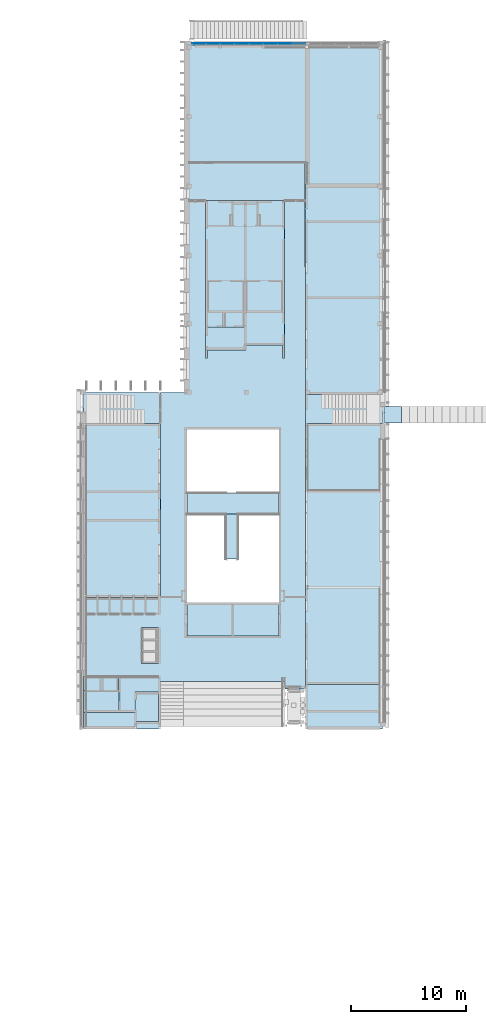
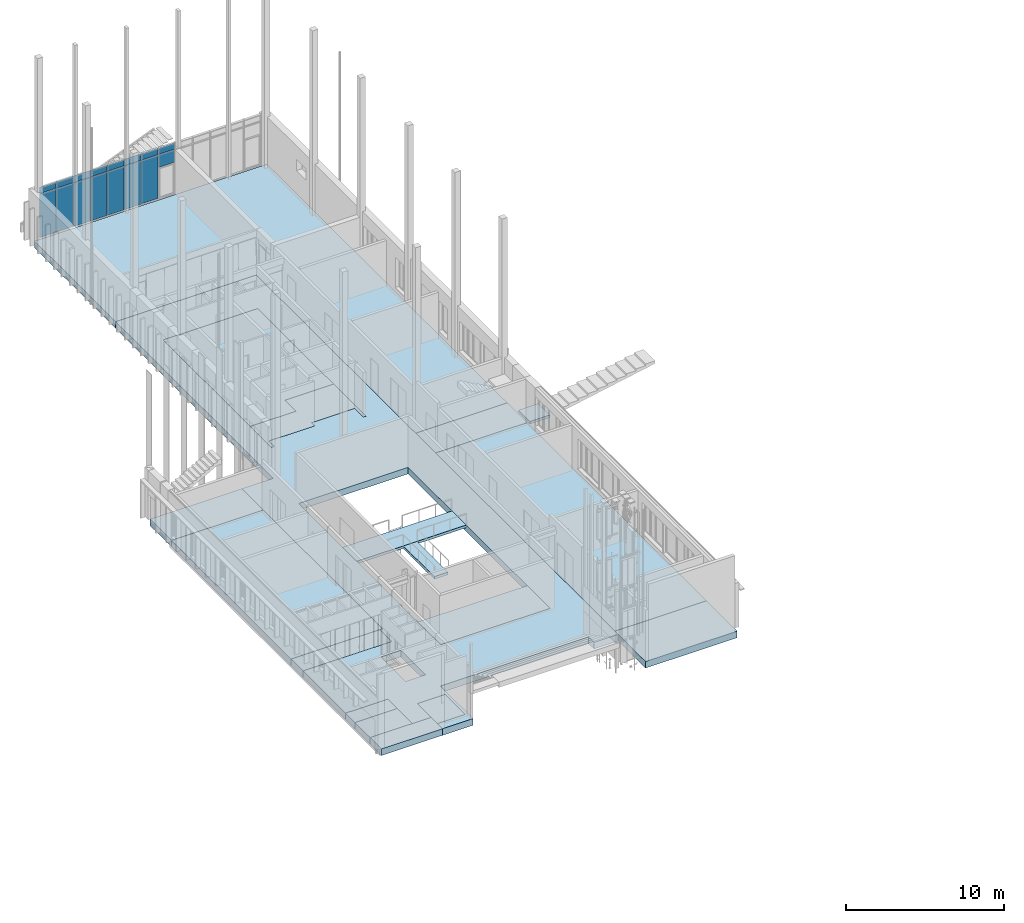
# One storey, part 9 of 89: 18 slabs, 16 plates, 3 openings, 1 element without a shape of its own.
"""IFC2X3 building model written with IfcOpenShell, lengths in millimetres."""

from ifc_helpers import new_model, entity, si_unit, converted_unit, derived_unit, money_unit, direction, frame, origin_with_axes, place, context, subcontext, project, spatial, polyline, outline, extrude, material, layer, layer_set, layer_usage, type_object, element, aggregate, save


model = new_model("IFC2X3")

# Units and contexts
model_context = context("Model", 3, precision=0.01, world=origin_with_axes(), true_north=direction((0.0, 1.0)))
body_context = subcontext(model_context, "Body", "Model", "MODEL_VIEW")
ifc_project = project(units=[si_unit("LENGTHUNIT", "METRE", prefix="MILLI"), si_unit("AREAUNIT", "SQUARE_METRE"), si_unit("VOLUMEUNIT", "CUBIC_METRE"), converted_unit("PLANEANGLEUNIT", "DEGREE", entity("IfcPlaneAngleMeasure", 0.0174532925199), si_unit("PLANEANGLEUNIT", "RADIAN"), dimensions=[0, 0, 0, 0, 0, 0, 0]), si_unit("SOLIDANGLEUNIT", "STERADIAN"), money_unit("EUR"), converted_unit("TIMEUNIT", "Year", entity("IfcTimeMeasure", 31556926.0), si_unit("TIMEUNIT", "SECOND"), dimensions=[0, 0, 1, 0, 0, 0, 0]), si_unit("MASSUNIT", "GRAM", prefix="KILO"), si_unit("THERMODYNAMICTEMPERATUREUNIT", "DEGREE_CELSIUS"), si_unit("LUMINOUSINTENSITYUNIT", "LUMEN"), si_unit("ENERGYUNIT", "JOULE", prefix="MEGA"), derived_unit("THERMALCONDUCTANCEUNIT", [(si_unit("POWERUNIT", "WATT"), 1), (si_unit("LENGTHUNIT", "METRE"), -1), (si_unit("THERMODYNAMICTEMPERATUREUNIT", "KELVIN"), -1)]), derived_unit("SPECIFICHEATCAPACITYUNIT", [(si_unit("ENERGYUNIT", "JOULE"), 1), (si_unit("MASSUNIT", "GRAM", prefix="KILO"), -1), (si_unit("THERMODYNAMICTEMPERATUREUNIT", "KELVIN"), -1)]), derived_unit("MASSDENSITYUNIT", [(si_unit("MASSUNIT", "GRAM", prefix="KILO"), 1), (si_unit("VOLUMEUNIT", "CUBIC_METRE"), -1)])], contexts=[model_context])

# Site, building, storey
site_placement = place(None, origin_with_axes())
site = spatial("IfcSite", under=ifc_project, at=site_placement, Name="Puškini 31, Narva", CompositionType="ELEMENT")
building_placement = place(site_placement, origin_with_axes())
building = spatial("IfcBuilding", under=site, at=building_placement, Name="Narva Riigigümnaasium", CompositionType="ELEMENT")
storey_placement = place(building_placement, frame((0.0, 0.0, -3300.0), z_axis=(0.0, 0.0, 1.0), x_axis=(1.0, 0.0, 0.0)))
storey = spatial("IfcBuildingStorey", under=building, at=storey_placement, Name="1.korrus -3.3", CompositionType="ELEMENT", Elevation=-3300.0)

# Curtain wall, plates
curtain_wall_type = type_object("IfcCurtainWallType", Name="Curtain Wall Type", PredefinedType="NOTDEFINED")
curtain_wall_placement = place(storey_placement, frame((47634.9999923, 254360.0, -1.86566340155e-05), z_axis=(0.0, 0.0, 1.0), x_axis=(1.0, 0.0, 0.0)))
curtain_wall = element("IfcCurtainWall", 1, at=curtain_wall_placement, inside=storey, type_object=curtain_wall_type, Name="G-KLF-06")
ifc_material_1 = material(Name="VKR-05_Klaas")
plate_type_1 = type_object("IfcPlateType", Name="1225 x 3375 x 20", PredefinedType="CURTAIN_PANEL")
plate_1_placement = place(curtain_wall_placement, frame((-8374.00000717, 0.0, 1710.00001951), z_axis=(0.0, 0.0, 1.0), x_axis=(-1.0, 0.0, 0.0)))
plate_1 = element("IfcPlate", 2, at=plate_1_placement, type_object=plate_type_1, material=ifc_material_1, Name="klaasfassaadi klaas", ObjectType="CURTAIN_PANEL", context=body_context, shape_type="SweptSolid", body=[
    extrude(outline(polyline([(-818.999986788, -1699.99999704), (405.999987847, -1699.99999704), (405.999987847, 1675.00001732), (-818.999986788, 1675.00001732), (-818.999986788, -1699.99999704)])), frame((0.0, -10.0, 0.0), z_axis=(0.0, 1.0, 0.0), x_axis=(1.0, 0.0, 0.0)), (0.0, 0.0, 1.0), 20.0),
])
ifc_material_2 = material(Name="Klaas")
plate_type_2 = type_object("IfcPlateType", Name="Main Panel 1230 x 3375 x 58", PredefinedType="CURTAIN_PANEL")
plate_2_placement = place(curtain_wall_placement, frame((-7126.9999986, 0.0, 1710.00001951), z_axis=(0.0, 0.0, 1.0), x_axis=(-1.0, 0.0, 0.0)))
plate_2 = element("IfcPlate", 3, at=plate_2_placement, type_object=plate_type_2, material=ifc_material_2, Name="klaasfassaadi klaas", ObjectType="CURTAIN_PANEL", context=body_context, shape_type="SweptSolid", body=[
    extrude(outline(polyline([(-822.000020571, -1699.99999704), (407.999990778, -1699.99999704), (407.999990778, 1675.00001732), (-822.000020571, 1675.00001732), (-822.000020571, -1699.99999704)])), frame((0.0, -29.0, 0.0), z_axis=(0.0, 1.0, 0.0), x_axis=(1.0, 0.0, 0.0)), (0.0, 0.0, 1.0), 58.0),
])
plate_type_3 = type_object("IfcPlateType", Name="Main Panel 5 x 10 x 58", PredefinedType="CURTAIN_PANEL")
plate_3_placement = place(curtain_wall_placement, frame((-5670.33332863, 0.0, 2280.00002601), z_axis=(0.0, 0.0, 1.0), x_axis=(-1.0, 0.0, 0.0)))
plate_3 = element("IfcPlate", 4, at=plate_3_placement, type_object=plate_type_3, material=ifc_material_2, Name="klaasfassaadi klaas", ObjectType="CURTAIN_PANEL", context=body_context, shape_type="SweptSolid", body=[
    extrude(outline(polyline([(-611.333361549, -1140.000013), (-606.333324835, -1140.000013), (-606.333324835, -1129.99999054), (599.666683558, -1129.99999054), (599.666683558, -1140.000013), (614.666640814, -1140.000013), (614.666640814, 2245.00002382), (-611.333361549, 2245.00002382), (-611.333361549, -1140.000013)])), frame((0.0, -29.0, 0.0), z_axis=(0.0, 1.0, 0.0), x_axis=(1.0, 0.0, 0.0)), (0.0, 0.0, 1.0), 58.0),
])
plate_type_4 = type_object("IfcPlateType", Name="Main Panel 7 x 10 x 58", PredefinedType="CURTAIN_PANEL")
plate_4_placement = place(curtain_wall_placement, frame((-3335.25000298, 0.0, 2137.50002438), z_axis=(0.0, 0.0, 1.0), x_axis=(-1.0, 0.0, 0.0)))
plate_4 = element("IfcPlate", 5, at=plate_4_placement, type_object=plate_type_4, material=ifc_material_2, Name="klaasfassaadi klaas", ObjectType="CURTAIN_PANEL", context=body_context, shape_type="SweptSolid", body=[
    extrude(outline(polyline([(-768.250028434, -1282.50001463), (-761.249987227, -1282.50001463), (-761.249987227, -1272.49999216), (442.750016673, -1272.49999216), (442.750016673, -1282.50001463), (459.749978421, -1282.50001463), (459.749978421, 2102.5000222), (-768.250028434, 2102.5000222), (-768.250028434, -1282.50001463)])), frame((0.0, -29.0, 0.0), z_axis=(0.0, 1.0, 0.0), x_axis=(1.0, 0.0, 0.0)), (0.0, 0.0, 1.0), 58.0),
])
ifc_material_3 = material(Name="ET-04_Alumiinium")
plate_type_5 = type_object("IfcPlateType", Name="1225 x 495 x 20", PredefinedType="CURTAIN_PANEL")
plate_5_placement = place(curtain_wall_placement, frame((-8374.00000717, 0.0, 3690.00002884), z_axis=(0.0, 0.0, 1.0), x_axis=(-1.0, 0.0, 0.0)))
plate_5 = element("IfcPlate", 6, at=plate_5_placement, type_object=plate_type_5, material=ifc_material_3, Name="klaasfassaadi klaas", ObjectType="CURTAIN_PANEL", context=body_context, shape_type="SweptSolid", body=[
    extrude(outline(polyline([(-818.999986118, -234.999983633), (406.000001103, -234.999983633), (406.000001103, 259.999980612), (-818.999986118, 259.999980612), (-818.999986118, -234.999983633)])), frame((0.0, -10.0, 0.0), z_axis=(0.0, 1.0, 0.0), x_axis=(1.0, 0.0, 0.0)), (0.0, 0.0, 1.0), 20.0),
])
ifc_material_4 = material(Name="Alumiiniumprofiil")
plate_type_6 = type_object("IfcPlateType", Name="1230 x 495 x 20", PredefinedType="CURTAIN_PANEL")
plate_6_placement = place(curtain_wall_placement, frame((-7126.9999986, 0.0, 3690.00002884), z_axis=(0.0, 0.0, 1.0), x_axis=(-1.0, 0.0, 0.0)))
plate_6 = element("IfcPlate", 7, at=plate_6_placement, type_object=plate_type_6, material=ifc_material_4, Name="klaasfassaadi klaas", ObjectType="CURTAIN_PANEL", context=body_context, shape_type="SweptSolid", body=[
    extrude(outline(polyline([(-822.000013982, -234.99999588), (408.000020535, -234.99999588), (408.000020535, 259.999997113), (-822.000013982, 259.999997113), (-822.000013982, -234.99999588)])), frame((0.0, -10.0, 0.0), z_axis=(0.0, 1.0, 0.0), x_axis=(1.0, 0.0, 0.0)), (0.0, 0.0, 1.0), 20.0),
])
plate_type_7 = type_object("IfcPlateType", Name="1226 x 505 x 20", PredefinedType="CURTAIN_PANEL")
plate_7_placement = place(curtain_wall_placement, frame((-5670.33332863, 0.0, 3600.00003223), z_axis=(0.0, 0.0, 1.0), x_axis=(-1.0, 0.0, 0.0)))
plate_7 = element("IfcPlate", 8, at=plate_7_placement, type_object=plate_type_7, material=ifc_material_4, Name="klaasfassaadi klaas", ObjectType="CURTAIN_PANEL", context=body_context, shape_type="SweptSolid", body=[
    extrude(outline(polyline([(-611.33333501, -324.999988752), (614.666661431, -324.999988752), (614.666661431, 179.999993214), (599.666677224, 179.999993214), (599.666677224, 169.999991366), (-606.333334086, 169.999991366), (-606.333334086, 179.999993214), (-611.33333501, 179.999993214), (-611.33333501, -324.999988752)])), frame((0.0, -10.0, 0.0), z_axis=(0.0, 1.0, 0.0), x_axis=(1.0, 0.0, 0.0)), (0.0, 0.0, 1.0), 20.0),
])
plate_8_placement = place(curtain_wall_placement, frame((-3178.66666935, 0.0, 3600.00003223), z_axis=(0.0, 0.0, 1.0), x_axis=(-1.0, 0.0, 0.0)))
plate_8 = element("IfcPlate", 9, at=plate_8_placement, type_object=plate_type_7, material=ifc_material_4, Name="klaasfassaadi klaas", ObjectType="CURTAIN_PANEL", context=body_context, shape_type="SweptSolid", body=[
    extrude(outline(polyline([(-611.666676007, -324.999988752), (614.333320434, -324.999988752), (614.333320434, 179.999993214), (599.333336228, 179.999993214), (599.333336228, 169.999991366), (-604.666633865, 169.999991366), (-604.666633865, 179.999993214), (-611.666676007, 179.999993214), (-611.666676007, -324.999988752)])), frame((0.0, -10.0, 0.0), z_axis=(0.0, 1.0, 0.0), x_axis=(1.0, 0.0, 0.0)), (0.0, 0.0, 1.0), 20.0),
])
plate_type_8 = type_object("IfcPlateType", Name="1226 x 495 x 20", PredefinedType="CURTAIN_PANEL")
plate_9_placement = place(curtain_wall_placement, frame((-4301.79999413, 0.0, 3636.00003087), z_axis=(0.0, 0.0, 1.0), x_axis=(-1.0, 0.0, 0.0)))
plate_9 = element("IfcPlate", 10, at=plate_9_placement, type_object=plate_type_8, material=ifc_material_4, Name="klaasfassaadi klaas", ObjectType="CURTAIN_PANEL", context=body_context, shape_type="SweptSolid", body=[
    extrude(outline(polyline([(-488.800000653, -288.999990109), (737.199995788, -288.999990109), (737.199995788, 205.999990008), (-488.800000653, 205.999990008), (-488.800000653, -288.999990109)])), frame((0.0, -9.99999999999, 0.0), z_axis=(0.0, 1.0, 0.0), x_axis=(1.0, 0.0, 0.0)), (0.0, 0.0, 1.0), 20.0),
])
plate_10_placement = place(curtain_wall_placement, frame((-1933.99999143, 0.0, 3690.00002884), z_axis=(0.0, 0.0, 1.0), x_axis=(-1.0, 0.0, 0.0)))
plate_10 = element("IfcPlate", 11, at=plate_10_placement, type_object=plate_type_8, material=ifc_material_3, Name="klaasfassaadi klaas", ObjectType="CURTAIN_PANEL", context=body_context, shape_type="SweptSolid", body=[
    extrude(outline(polyline([(-612.99999822, -234.999992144), (612.99999822, -234.999992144), (612.99999822, 259.999987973), (-612.99999822, 259.999987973), (-612.99999822, -234.999992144)])), frame((0.0, -9.99999999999, 0.0), z_axis=(0.0, 1.0, 0.0), x_axis=(1.0, 0.0, 0.0)), (0.0, 0.0, 1.0), 20.0),
])
plate_type_9 = type_object("IfcPlateType", Name="1166 x 1010 x 20", PredefinedType="CURTAIN_PANEL")
plate_11_placement = place(curtain_wall_placement, frame((-639.019647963, 0.0, 2833.57146652), z_axis=(0.0, 0.0, 1.0), x_axis=(-1.0, 0.0, 0.0)))
plate_11 = element("IfcPlate", 12, at=plate_11_placement, type_object=plate_type_9, material=ifc_material_2, Name="klaasfassaadi klaas", ObjectType="CURTAIN_PANEL", context=body_context, shape_type="SweptSolid", body=[
    extrude(outline(polyline([(-504.019626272, -576.428566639), (661.980344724, -576.428566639), (661.980344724, 433.571439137), (646.980373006, 433.571439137), (646.980373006, 423.571440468), (-478.882181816, 423.571440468), (-478.882181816, 433.571439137), (-494.019627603, 433.571439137), (-494.019627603, -561.428612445), (-504.019626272, -561.428612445), (-504.019626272, -576.428566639)])), frame((0.0, -10.0, 0.0), z_axis=(0.0, 1.0, 0.0), x_axis=(1.0, 0.0, 0.0)), (0.0, 0.0, 1.0), 20.0),
])
plate_type_10 = type_object("IfcPlateType", Name="1156 x 495 x 20", PredefinedType="CURTAIN_PANEL")
plate_12_placement = place(curtain_wall_placement, frame((-723.000006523, 0.0, 3690.00002884), z_axis=(0.0, 0.0, 1.0), x_axis=(-1.0, 0.0, 0.0)))
plate_12 = element("IfcPlate", 13, at=plate_12_placement, type_object=plate_type_10, material=ifc_material_4, Name="klaasfassaadi klaas", ObjectType="CURTAIN_PANEL", context=body_context, shape_type="SweptSolid", body=[
    extrude(outline(polyline([(-577.999986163, -234.999986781), (577.999986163, -234.999986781), (577.999986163, 259.999991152), (-577.999986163, 259.999991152), (-577.999986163, -234.999986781)])), frame((0.0, -9.99999999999, 0.0), z_axis=(0.0, 1.0, 0.0), x_axis=(1.0, 0.0, 0.0)), (0.0, 0.0, 1.0), 20.0),
])
plate_type_11 = type_object("IfcPlateType", Name="1198 x 3375 x 20", PredefinedType="CURTAIN_PANEL")
plate_13_placement = place(curtain_wall_placement, frame((-9411.50000491, 0.0, 1710.00001951), z_axis=(0.0, 0.0, 1.0), x_axis=(-1.0, 0.0, 0.0)))
plate_13 = element("IfcPlate", 14, at=plate_13_placement, type_object=plate_type_11, material=ifc_material_1, Name="klaasfassaadi klaas", ObjectType="CURTAIN_PANEL", context=body_context, shape_type="SweptSolid", body=[
    extrude(outline(polyline([(-611.500005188, -1699.99999704), (586.499985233, -1699.99999704), (586.499985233, 1675.00001732), (-611.500005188, 1675.00001732), (-611.500005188, -1699.99999704)])), frame((0.0, -9.99999999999, 0.0), z_axis=(0.0, 1.0, 0.0), x_axis=(1.0, 0.0, 0.0)), (0.0, 0.0, 1.0), 20.0),
])
plate_type_12 = type_object("IfcPlateType", Name="1226 x 3375 x 20", PredefinedType="CURTAIN_PANEL")
plate_14_placement = place(curtain_wall_placement, frame((-1809.39999141, 0.0, 1848.00002108), z_axis=(0.0, 0.0, 1.0), x_axis=(-1.0, 0.0, 0.0)))
plate_14 = element("IfcPlate", 15, at=plate_14_placement, type_object=plate_type_12, material=ifc_material_1, Name="klaasfassaadi klaas", ObjectType="CURTAIN_PANEL", context=body_context, shape_type="SweptSolid", body=[
    extrude(outline(polyline([(-488.400024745, -1561.99999547), (737.599977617, -1561.99999547), (737.599977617, 1813.00001889), (-488.400024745, 1813.00001889), (-488.400024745, -1561.99999547)])), frame((0.0, -9.99999999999, 0.0), z_axis=(0.0, 1.0, 0.0), x_axis=(1.0, 0.0, 0.0)), (0.0, 0.0, 1.0), 20.0),
])
plate_type_13 = type_object("IfcPlateType", Name="Main Panel 1224 x 3375 x 58", PredefinedType="CURTAIN_PANEL")
plate_15_placement = place(curtain_wall_placement, frame((-4426.99999782, 0.0, 1710.00001951), z_axis=(0.0, 0.0, 1.0), x_axis=(-1.0, 0.0, 0.0)))
plate_15 = element("IfcPlate", 16, at=plate_15_placement, type_object=plate_type_13, material=ifc_material_2, Name="klaasfassaadi klaas", ObjectType="CURTAIN_PANEL", context=body_context, shape_type="SweptSolid", body=[
    extrude(outline(polyline([(-611.999975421, -1699.99999704), (611.999971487, -1699.99999704), (611.999971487, 1675.00001732), (-611.999975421, 1675.00001732), (-611.999975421, -1699.99999704)])), frame((0.0, -29.0, 0.0), z_axis=(0.0, 1.0, 0.0), x_axis=(1.0, 0.0, 0.0)), (0.0, 0.0, 1.0), 58.0),
])
plate_type_14 = type_object("IfcPlateType", Name="1198 x 495 x 20", PredefinedType="CURTAIN_PANEL")
plate_16_placement = place(curtain_wall_placement, frame((-9411.50000491, 0.0, 3690.00002884), z_axis=(0.0, 0.0, 1.0), x_axis=(-1.0, 0.0, 0.0)))
plate_16 = element("IfcPlate", 17, at=plate_16_placement, type_object=plate_type_14, material=ifc_material_3, Name="klaasfassaadi klaas", ObjectType="CURTAIN_PANEL", context=body_context, shape_type="SweptSolid", body=[
    extrude(outline(polyline([(-611.499984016, -234.999996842), (586.499994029, -234.999996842), (586.499994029, 259.999986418), (-611.499984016, 259.999986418), (-611.499984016, -234.999996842)])), frame((0.0, -9.99999999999, 0.0), z_axis=(0.0, 1.0, 0.0), x_axis=(1.0, 0.0, 0.0)), (0.0, 0.0, 1.0), 20.0),
])
aggregate(curtain_wall, [plate_1, plate_2, plate_3, plate_4, plate_5, plate_6, plate_7, plate_9, plate_8, plate_10, plate_11, plate_12, plate_13, plate_14, plate_15, plate_16])

# Slabs
ifc_material_5 = material(Name="Salto-põrandakate")
ifc_layer_1 = layer(ifc_material_5, 10.0, ventilated="UNKNOWN")
ifc_material_6 = material(Name="KON-04_Betoon - Konstuktsioon")
ifc_layer_2 = layer(ifc_material_6, 100.0, ventilated="UNKNOWN")
ifc_material_7 = material(Name="SOJ-04_Soojustus - Mineraal Kõva")
ifc_layer_3 = layer(ifc_material_7, 100.0, ventilated="UNKNOWN")
ifc_material_8 = material(Name="VKK-03_Kruus")
ifc_layer_4 = layer(ifc_material_8, 200.0, ventilated="UNKNOWN")
ifc_layer_set_1 = layer_set([ifc_layer_1, ifc_layer_2, ifc_layer_3, ifc_layer_3, ifc_layer_4], Name="G-PP-01")
ifc_layer_usage_1 = layer_usage(ifc_layer_set_1, "AXIS3", "NEGATIVE", 510.0)
slab_type_1 = type_object("IfcSlabType", Name="G-PP-01 510", PredefinedType="NOTDEFINED")
slab_1_placement = place(storey_placement, frame((28200.0401775, 199259.999716, 0.0), z_axis=(0.0, 0.0, 1.0), x_axis=(1.0, 0.0, 0.0)))
element("IfcSlab", 18, at=slab_1_placement, inside=storey, type_object=slab_type_1, material=ifc_layer_usage_1, Name="Põrand pinnasel", PredefinedType="NOTDEFINED", context=body_context, shape_type="SweptSolid", body=[
    extrude(outline(polyline([(0.0, 0.0), (0.0, -1200.00001432), (3099.97815645, -1200.00001432), (3099.97814178, 0.0), (0.0, 0.0)])), frame((0.0, 0.0, -510.0), z_axis=(0.0, 0.0, 1.0), x_axis=(1.0, 0.0, 0.0)), (0.0, 0.0, 1.0), 510.0),
])
slab_2_placement = place(storey_placement, frame((28200.0401775, 194700.0, 0.0), z_axis=(0.0, 0.0, 1.0), x_axis=(1.0, 0.0, 0.0)))
element("IfcSlab", 19, at=slab_2_placement, inside=storey, type_object=slab_type_1, material=ifc_layer_usage_1, Name="Põrand pinnasel", PredefinedType="NOTDEFINED", context=body_context, shape_type="SweptSolid", body=[
    extrude(outline(polyline([(0.0, 0.0), (4459.95982016, 0.0), (4459.95982016, 1449.99999437), (0.0, 1449.99999437), (0.0, 0.0)])), frame((0.0, 0.0, -510.0), z_axis=(0.0, 0.0, 1.0), x_axis=(1.0, 0.0, 0.0)), (0.0, 0.0, 1.0), 510.0),
])
slab_3_placement = place(storey_placement, frame((28200.0401775, 196149.999994, 0.0), z_axis=(0.0, 0.0, 1.0), x_axis=(1.0, 0.0, 0.0)))
element("IfcSlab", 20, at=slab_3_placement, inside=storey, type_object=slab_type_1, material=ifc_layer_usage_1, Name="Põrand pinnasel", PredefinedType="NOTDEFINED", context=body_context, shape_type="SweptSolid", body=[
    extrude(outline(polyline([(0.0, 0.0), (3099.97815645, 0.0), (3099.97815645, 1909.99970727), (0.0, 1909.99970727), (0.0, 0.0)])), frame((0.0, 0.0, -510.0), z_axis=(0.0, 0.0, 1.0), x_axis=(1.0, 0.0, 0.0)), (0.0, 0.0, 1.0), 510.0),
])
slab_4_placement = place(storey_placement, frame((32660.0016888, 195350.0, 0.0), z_axis=(0.0, 0.0, 1.0), x_axis=(1.0, 0.0, 0.0)))
element("IfcSlab", 21, at=slab_4_placement, inside=storey, type_object=slab_type_1, material=ifc_layer_usage_1, Name="Põrand pinnasel", PredefinedType="NOTDEFINED", context=body_context, shape_type="SweptSolid", body=[
    extrude(outline(polyline([(0.0, 0.0), (2039.99829744, -1.10844666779e-09), (2039.99831086, 2549.75868513), (-0.00166367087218, 2549.75868513), (0.0, 0.0)])), frame((0.0, 0.0, -510.0), z_axis=(0.0, 0.0, 1.0), x_axis=(1.0, 0.0, 0.0)), (0.0, 0.0, 1.0), 510.0),
])
slab_5_placement = place(storey_placement, frame((42160.0000002, 231090.000001, 0.0), z_axis=(0.0, 0.0, 1.0), x_axis=(1.0, 0.0, 0.0)))
element("IfcSlab", 22, at=slab_5_placement, inside=storey, type_object=slab_type_1, material=ifc_layer_usage_1, Name="Põrand pinnasel", PredefinedType="NOTDEFINED", context=body_context, shape_type="SweptSolid", body=[
    extrude(outline(polyline([(0.0, 0.0), (3549.99999997, 0.0), (3549.99999997, 9620.00000007), (-3359.99999992, 9620.00000007), (-3359.99999992, -1399.99998157), (0.0, -1399.99998157), (0.0, 0.0)])), frame((0.0, 0.0, -510.0), z_axis=(0.0, 0.0, 1.0), x_axis=(1.0, 0.0, 0.0)), (0.0, 0.0, 1.0), 510.0),
])
slab_6_placement = place(storey_placement, frame((34699.9999996, 206159.99971, 0.0), z_axis=(0.0, 0.0, 1.0), x_axis=(1.0, 0.0, 0.0)))
element("IfcSlab", 23, at=slab_6_placement, inside=storey, type_object=slab_type_1, material=ifc_layer_usage_1, Name="Põrand pinnasel", PredefinedType="NOTDEFINED", context=body_context, shape_type="SweptSolid", body=[
    extrude(outline(polyline([(0.0, 0.0), (-6499.95982215, -2.26174279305e-06), (-6499.95982215, -1509.99996768), (0.0, -1509.99996768), (0.0, 0.0)])), frame((0.0, 0.0, -510.0), z_axis=(0.0, 0.0, 1.0), x_axis=(1.0, 0.0, 0.0)), (0.0, 0.0, 1.0), 510.0),
])
slab_7_placement = place(storey_placement, frame((37400.0000002, 254250.0, 0.0), z_axis=(0.0, 0.0, 1.0), x_axis=(1.0, 0.0, 0.0)))
element("IfcSlab", 24, at=slab_7_placement, inside=storey, type_object=slab_type_1, material=ifc_layer_usage_1, Name="Põrand pinnasel", PredefinedType="NOTDEFINED", context=body_context, shape_type="SweptSolid", body=[
    extrude(outline(polyline([(0.0, 0.0), (-200.0, 0.0), (-200.0, -10289.9999436), (10089.9999999, -10289.9999436), (10099.9999926, -30450.0000002), (16800.0000016, -30450.0000018), (16800.0000016, -19.9999648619), (0.0, -19.9999648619), (0.0, 0.0)])), frame((0.0, 0.0, -510.0), z_axis=(0.0, 0.0, 1.0), x_axis=(1.0, 0.0, 0.0)), (0.0, 0.0, 1.0), 510.0),
])
slab_8_placement = place(storey_placement, frame((47499.9999928, 221279.999999, 0.0), z_axis=(0.0, 0.0, 1.0), x_axis=(1.0, 0.0, 0.0)))
element("IfcSlab", 25, at=slab_8_placement, inside=storey, type_object=slab_type_1, material=ifc_layer_usage_1, Name="Põrand pinnasel", PredefinedType="NOTDEFINED", context=body_context, shape_type="SweptSolid", body=[
    extrude(outline(polyline([(0.0, 0.0), (0.0, -22709.9999788), (6700.00000831, -22709.9999788), (6700.00000868, 1.26192389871e-08), (0.0, 0.0)])), frame((0.0, 0.0, -510.0), z_axis=(0.0, 0.0, 1.0), x_axis=(1.0, 0.0, 0.0)), (0.0, 0.0, 1.0), 510.0),
])
slab_9_placement = place(storey_placement, frame((34900.0155553, 221279.999954, 0.0), z_axis=(0.0, 0.0, 1.0), x_axis=(1.0, 0.0, 0.0)))
element("IfcSlab", 26, at=slab_9_placement, inside=storey, type_object=slab_type_1, material=ifc_layer_usage_1, Name="Põrand pinnasel", PredefinedType="NOTDEFINED", context=body_context, shape_type="SweptSolid", body=[
    extrude(outline(polyline([(0.0, 0.0), (-6699.97537784, 0.0), (-6699.97537784, -15120.0002455), (-0.0156843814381, -15120.0002455), (0.0, 0.0)])), frame((0.0, 0.0, -510.0), z_axis=(0.0, 0.0, 1.0), x_axis=(1.0, 0.0, 0.0)), (0.0, 0.0, 1.0), 510.0),
])
slab_10_placement = place(storey_placement, frame((38800.0000003, 227000.0, 0.0), z_axis=(0.0, 0.0, 1.0), x_axis=(1.0, 0.0, 0.0)))
element("IfcSlab", 27, at=slab_10_placement, inside=storey, type_object=slab_type_1, material=ifc_layer_usage_1, Name="Põrand pinnasel", PredefinedType="NOTDEFINED", context=body_context, shape_type="SweptSolid", body=[
    extrude(outline(polyline([(0.0, 0.0), (200.000042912, 0.0), (200.000042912, 700.000047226), (3550.00004092, 700.000047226), (3550.00004092, 1100.00003008), (6709.99995698, 1100.00003008), (6709.99995698, 0.0), (6909.99999989, 0.0), (6909.99999989, 4089.99999204), (3359.99995897, 4089.99999204), (3359.99995897, 2690.00000055), (0.0, 2690.00000055), (0.0, 0.0)])), frame((0.0, 0.0, -510.0), z_axis=(0.0, 0.0, 1.0), x_axis=(1.0, 0.0, 0.0)), (0.0, 0.0, 1.0), 510.0),
])

# Slab, openings
ifc_layer_5 = layer(ifc_material_6, 110.0, ventilated="UNKNOWN")
ifc_layer_set_2 = layer_set([ifc_layer_5, ifc_layer_3, ifc_layer_3, ifc_layer_4], Name="G-PP-01*")
ifc_layer_usage_2 = layer_usage(ifc_layer_set_2, "AXIS3", "NEGATIVE", 510.0)
slab_type_2 = type_object("IfcSlabType", Name="G-PP-01* 510", PredefinedType="NOTDEFINED")
slab_11_placement = place(storey_placement, frame((28200.0401775, 204649.999743, 0.0), z_axis=(0.0, 0.0, 1.0), x_axis=(1.0, 0.0, 0.0)))
slab_11 = element("IfcSlab", 28, at=slab_11_placement, inside=storey, type_object=slab_type_2, material=ifc_layer_usage_2, Name="Põrand pinnasel", PredefinedType="NOTDEFINED", context=body_context, shape_type="SweptSolid", body=[
    extrude(outline(polyline([(0.0, 0.0), (0.0, -5390.00002679), (3099.97814178, -5390.00002679), (3099.97815645, -8499.99974838), (4459.95982016, -8499.99974838), (4459.95984761, -6750.24105749), (6499.95982215, -6750.24105749), (6499.95980872, -9299.99974262), (4459.95982016, -9299.99974262), (4459.95982016, -9949.99974276), (6699.95986894, -9949.99974276), (6699.9598688, -5810.51229745), (17529.9598153, -5810.51229708), (17529.9598153, -6489.99974244), (19299.9598153, -6489.99974244), (19299.9598153, 39310.0003141), (8999.95982267, 39310.0003141), (8999.95982267, 19350.0002621), (6699.97540684, 19350.0002575), (6699.95982215, 1509.99996775), (6499.95982215, 1509.99996768), (6499.95982215, 0.0), (0.0, 0.0)])), frame((0.0, 0.0, -510.0), z_axis=(0.0, 0.0, 1.0), x_axis=(1.0, 0.0, 0.0)), (0.0, 0.0, 1.0), 510.0),
])
opening_1_placement = place(slab_11_placement, frame((5059.95980062, -4250.0000324, 0.0), z_axis=(0.0, 0.0, 1.0), x_axis=(1.0, 0.0, 0.0)))
element("IfcOpeningElement", 29, at=opening_1_placement, cuts=slab_11, Name="Slab Opening", context=body_context, shape_type="SweptSolid", body=[
    extrude(outline(polyline([(0.0, 0.0), (1440.00002153, 0.0), (1440.00002153, 3120.0), (0.0, 3120.0), (0.0, 0.0)])), frame((0.0, 0.0, -510.0), z_axis=(0.0, 0.0, 1.0), x_axis=(1.0, 0.0, 0.0)), (0.0, 0.0, 1.0), 510.0),
])
opening_2_placement = place(slab_11_placement, frame((8999.97327952, -1849.99973674, 0.0), z_axis=(0.0, 0.0, 1.0), x_axis=(1.0, 0.0, 0.0)))
element("IfcOpeningElement", 30, at=opening_2_placement, cuts=slab_11, Name="Slab Opening", context=body_context, shape_type="SweptSolid", body=[
    extrude(outline(polyline([(0.0, 0.0), (7999.9865426, 0.0), (7999.9865426, 17979.9999868), (-0.0130086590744, 17979.9999868), (0.0, 0.0)])), frame((0.0, 0.0, -510.0), z_axis=(0.0, 0.0, 1.0), x_axis=(1.0, 0.0, 0.0)), (0.0, 0.0, 1.0), 510.0),
])
opening_3_placement = place(slab_11_placement, frame((10799.9598228, 22350.0002575, 0.0), z_axis=(0.0, 0.0, 1.0), x_axis=(0.0, 1.0, 0.0)))
element("IfcOpeningElement", 31, at=opening_3_placement, cuts=slab_11, Name="Slab Opening", context=body_context, shape_type="SweptSolid", body=[
    extrude(outline(polyline([(0.0, 0.0), (700.000000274, 0.0), (700.000000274, -3349.99999992), (1100.00000027, -3349.99999992), (1100.00000027, -6509.99999989), (0.0, -6509.99999989), (0.0, -6709.99999989), (13710.0000004, -6709.99999989), (13710.0000004, 200.0), (0.0, 200.0), (0.0, 0.0)])), frame((0.0, 0.0, -510.0), z_axis=(0.0, 0.0, 1.0), x_axis=(1.0, 0.0, 0.0)), (0.0, 0.0, 1.0), 510.0),
])

# Slabs
slab_12_placement = place(storey_placement, frame((28200.0401775, 224000.000005, 0.0), z_axis=(0.0, 0.0, 1.0), x_axis=(1.0, 0.0, 0.0)))
element("IfcSlab", 32, at=slab_12_placement, inside=storey, type_object=slab_type_2, material=ifc_layer_usage_2, Name="Põrand pinnasel", PredefinedType="NOTDEFINED", context=body_context, shape_type="SweptSolid", body=[
    extrude(outline(polyline([(0.0, 0.0), (0.0, -2720.00005119), (6699.97565486, -2720.00000551), (6699.97537784, 0.0), (0.0, 0.0)])), frame((0.0, 0.0, -510.0), z_axis=(0.0, 0.0, 1.0), x_axis=(1.0, 0.0, 0.0)), (0.0, 0.0, 1.0), 510.0),
])
slab_13_placement = place(storey_placement, frame((47499.9999928, 221279.999999, 0.0), z_axis=(0.0, 0.0, 1.0), x_axis=(1.0, 0.0, 0.0)))
element("IfcSlab", 33, at=slab_13_placement, inside=storey, type_object=slab_type_2, material=ifc_layer_usage_2, Name="Põrand pinnasel", PredefinedType="NOTDEFINED", context=body_context, shape_type="SweptSolid", body=[
    extrude(outline(polyline([(0.0, 0.0), (6700.00000868, 1.26192389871e-08), (6700.00000901, 2519.99999984), (0.0, 2520.00000141), (0.0, 0.0)])), frame((0.0, 0.0, -510.0), z_axis=(0.0, 0.0, 1.0), x_axis=(1.0, 0.0, 0.0)), (0.0, 0.0, 1.0), 510.0),
])
slab_14_placement = place(storey_placement, frame((47499.9999928, 198570.00002, 0.0), z_axis=(0.0, 0.0, 1.0), x_axis=(1.0, 0.0, 0.0)))
element("IfcSlab", 34, at=slab_14_placement, inside=storey, type_object=slab_type_2, material=ifc_layer_usage_2, Name="Põrand pinnasel", PredefinedType="NOTDEFINED", context=body_context, shape_type="SweptSolid", body=[
    extrude(outline(polyline([(0.0, 0.0), (0.0, -3870.00001958), (6700.00000824, -3870.00002002), (6700.00000831, 0.0), (0.0, 0.0)])), frame((0.0, 0.0, -510.0), z_axis=(0.0, 0.0, 1.0), x_axis=(1.0, 0.0, 0.0)), (0.0, 0.0, 1.0), 510.0),
])
ifc_layer_6 = layer(ifc_material_6, 90.0, ventilated="UNKNOWN")
ifc_layer_7 = layer(ifc_material_7, 30.0, ventilated="UNKNOWN")
ifc_material_9 = material(Name="SOJ-06_Soojustus - Plastik Kõva")
ifc_layer_8 = layer(ifc_material_9, 20.0, ventilated="UNKNOWN")
ifc_material_10 = material(Name="Betoon element")
ifc_layer_9 = layer(ifc_material_10, 265.0, ventilated="UNKNOWN")
ifc_layer_set_3 = layer_set([ifc_layer_6, ifc_layer_7, ifc_layer_8, ifc_layer_9], Name="G-VL-02*")
ifc_layer_usage_3 = layer_usage(ifc_layer_set_3, "AXIS3", "NEGATIVE", 405.0)
slab_type_3 = type_object("IfcSlabType", Name="G-VL-02* 405", PredefinedType="NOTDEFINED")
slab_15_placement = place(storey_placement, frame((37200.013457, 202800.000006, 0.0), z_axis=(0.0, 0.0, 1.0), x_axis=(1.0, 0.0, 0.0)))
element("IfcSlab", 35, at=slab_15_placement, inside=storey, type_object=slab_type_3, material=ifc_layer_usage_3, Name="Vahelagi", PredefinedType="NOTDEFINED", context=body_context, shape_type="SweptSolid", body=[
    extrude(outline(polyline([(0.0, 0.0), (7999.9865426, 0.0), (7999.9865426, 2900.00001827), (0.0, 2900.00001827), (0.0, 0.0)])), frame((0.0, 0.0, -405.0), z_axis=(0.0, 0.0, 1.0), x_axis=(1.0, 0.0, 0.0)), (0.0, 0.0, 1.0), 405.0),
])
ifc_material_11 = material(Name="ET-06_Teras - Konstruktsioon")
ifc_layer_10 = layer(ifc_material_11, 200.0, ventilated="UNKNOWN")
ifc_layer_set_4 = layer_set([ifc_layer_10], Name="ET-06_Teras - Konstruktsioon 200")
ifc_layer_usage_4 = layer_usage(ifc_layer_set_4, "AXIS3", "NEGATIVE", 200.0)
slab_type_4 = type_object("IfcSlabType", Name="ET-06_Teras - Konstruktsioon 200", PredefinedType="NOTDEFINED")
slab_16_placement = place(storey_placement, frame((37200.0043274, 215215.0, 0.0), z_axis=(0.0, 0.0, 1.0), x_axis=(1.0, 0.0, 0.0)))
element("IfcSlab", 36, at=slab_16_placement, inside=storey, type_object=slab_type_4, material=ifc_layer_usage_4, Name="Trepimade", PredefinedType="NOTDEFINED", context=body_context, shape_type="SweptSolid", body=[
    extrude(outline(polyline([(0.0, 0.0), (0.00131081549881, -1799.99999997), (8000.0008909, -1799.99417413), (7999.99958008, 0.00582584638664), (0.0, 0.0)])), frame((0.0, 0.0, -200.0), z_axis=(0.0, 0.0, 1.0), x_axis=(1.0, 0.0, 0.0)), (0.0, 0.0, 1.0), 200.0),
])
slab_17_placement = place(storey_placement, frame((40600.0056285, 213415.002476, 0.0), z_axis=(0.0, 0.0, 1.0), x_axis=(1.0, 0.0, 0.0)))
element("IfcSlab", 37, at=slab_17_placement, inside=storey, type_object=slab_type_4, material=ifc_layer_usage_4, Name="Trepimade", PredefinedType="NOTDEFINED", context=body_context, shape_type="SweptSolid", body=[
    extrude(outline(polyline([(0.0, 0.0), (0.00285236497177, -3916.84181019), (1000.00286212, -3916.84108196), (1000.00000976, 0.000728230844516), (0.0, 0.0)])), frame((0.0, 0.0, -200.0), z_axis=(0.0, 0.0, 1.0), x_axis=(1.0, 0.0, 0.0)), (0.0, 0.0, 1.0), 200.0),
])
ifc_layer_11 = layer(ifc_material_6, 200.0, ventilated="UNKNOWN")
ifc_layer_set_5 = layer_set([ifc_layer_11], Name="KON-04_Betoon - Konstuktsioon 200")
ifc_layer_usage_5 = layer_usage(ifc_layer_set_5, "AXIS3", "NEGATIVE", 200.0)
slab_type_5 = type_object("IfcSlabType", Name="KON-04_Betoon - Konstuktsioon 200", PredefinedType="NOTDEFINED")
slab_18_placement = place(storey_placement, frame((54410.000001, 221320.236748, -20.4545454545), z_axis=(0.0, 0.0, 1.0), x_axis=(1.0, 0.0, 0.0)))
element("IfcSlab", 38, at=slab_18_placement, inside=storey, type_object=slab_type_5, material=ifc_layer_usage_5, Name="välistrepp", PredefinedType="NOTDEFINED", context=body_context, shape_type="SweptSolid", body=[
    extrude(outline(polyline([(0.0, 0.0), (1467.78657335, 0.0), (1467.78657335, 1460.0), (0.0, 1460.0), (0.0, 0.0)])), frame((0.0, 0.0, -200.0), z_axis=(0.0, 0.0, 1.0), x_axis=(1.0, 0.0, 0.0)), (0.0, 0.0, 1.0), 200.0),
])

save(model, "model.ifc")
